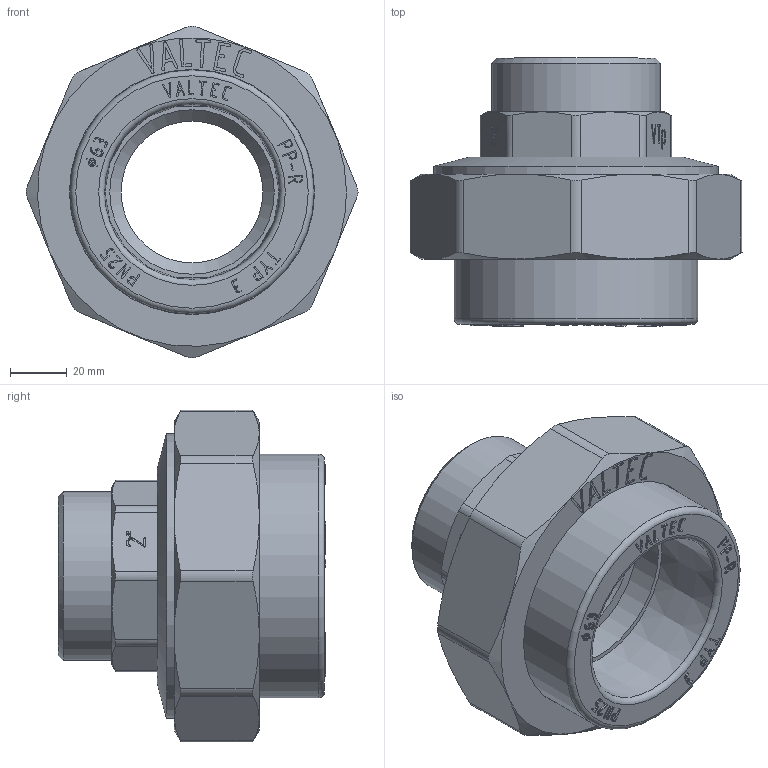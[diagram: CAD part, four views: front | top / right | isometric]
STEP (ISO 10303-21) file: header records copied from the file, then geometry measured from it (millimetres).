
FILE_DESCRIPTION(('STEP AP203'), '1');
FILE_NAME('VTp.761.0.06309', '', ('UNSPECIFIED'), ('UNSPECIFIED'), 'C3D Converter', 'C3D Toolkit', '');
FILE_SCHEMA(('CONFIG_CONTROL_DESIGN'));
Length unit declared in the file: millimetre
Products named in the file (1): ВР.302634.105.000 СБ
Bounding box: 117.16 x 94.5 x 117.16 mm (x, y, z)
Volume: 332512 mm3; surface area: 96980.7 mm2
Topology: 4 solids, 4 shells, 863 faces, 2395 edges, 1587 vertices
Faces by surface type: extrusion 474, plane 333, cylinder 29, cone 21, torus 6
Full cylindrical faces by diameter (mm): 50 x1, 58 x1, 59.614 x1, 60 x1, 68 x2, 86 x1, 86.5 x1, 88 x2, 97.5 x1, 98 x1, 100.33 x1
Entity records: 29765 total; most frequent: CARTESIAN_POINT 9766, ORIENTED_EDGE 4704, DIRECTION 2650, EDGE_CURVE 2352, VECTOR 1762, VERTEX_POINT 1579, B_SPLINE_CURVE_WITH_KNOTS 1480, LINE 1288
